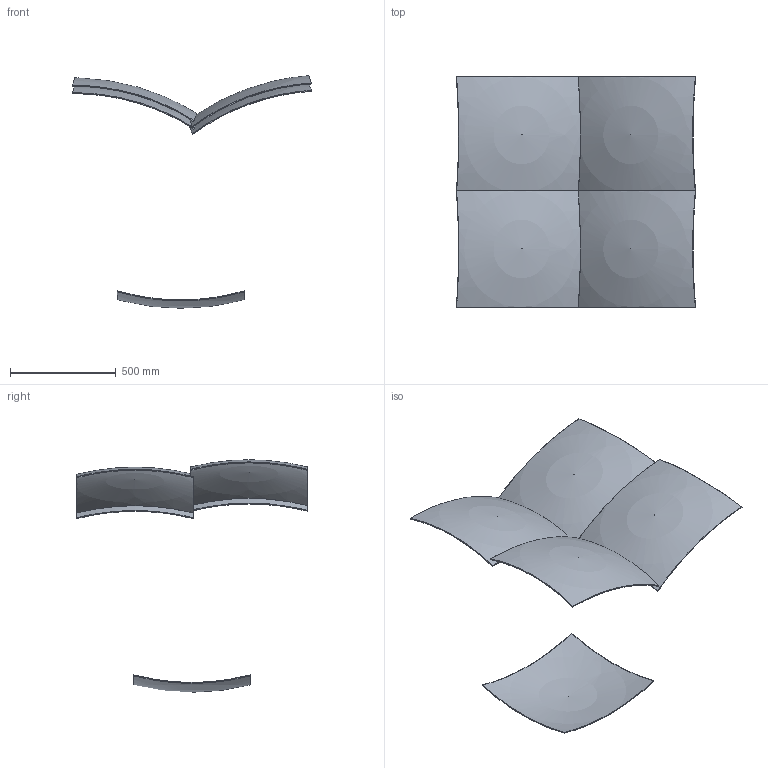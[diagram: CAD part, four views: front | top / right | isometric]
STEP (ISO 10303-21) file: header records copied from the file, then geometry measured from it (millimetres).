
FILE_DESCRIPTION( ( 'Unknown' ), '1' );
FILE_NAME( 'C:/Users/Lee/Documents/HGC Work/Solid Edge/heavy_gas_cherenkov_v5/step/mirror_assembly.stp', 'Unknown', ( 'Unknown' ), ( 'Unknown' ), 'PSStep 13.0', 'Unknown', ' ' );
FILE_SCHEMA( ( 'AUTOMOTIVE_DESIGN { 1 0 10303 214 1 1 1 1 }' ) );
Length unit declared in the file: millimetre
Products named in the file (4): Assem1; mirror; CF_mirror_backing; mirror_alone
Bounding box: 1133.4 x 1090 x 1100.89 mm (x, y, z)
Volume: 9122776.3 mm3; surface area: 8174139.3 mm2
Topology: 12 solids, 12 shells, 72 faces, 216 edges, 144 vertices
Faces by surface type: plane 48, sphere 24
Entity records: 494 total; most frequent: DIRECTION 78, CARTESIAN_POINT 59, ORIENTED_EDGE 48, AXIS2_PLACEMENT_3D 35, EDGE_CURVE 24, VERTEX_POINT 16, CIRCLE 16, STYLED_ITEM 12
